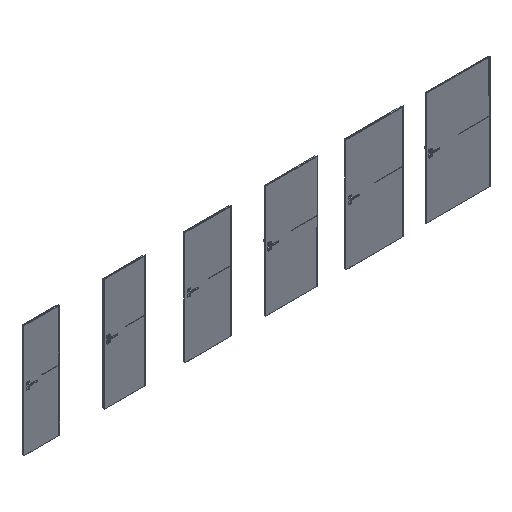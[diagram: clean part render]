
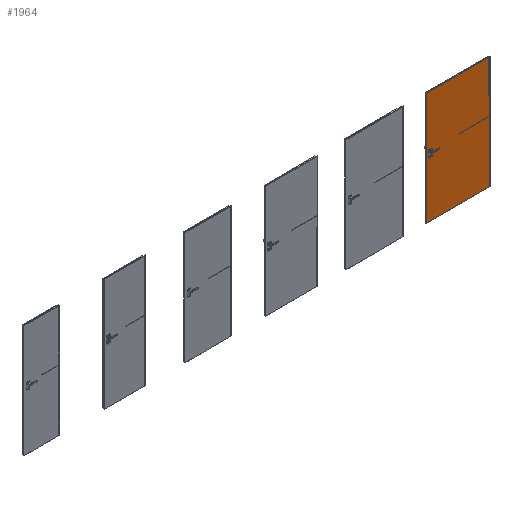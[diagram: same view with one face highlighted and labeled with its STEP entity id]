
A CAD part, isometric view. The second image highlights one B-rep face of the part: STEP entity #1964.
In plain terms, the highlighted planar face has unit normal (0, -1, 0).
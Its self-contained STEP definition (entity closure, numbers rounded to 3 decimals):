
#1964=ADVANCED_FACE('',(#3720),#3006,.F.);
#3006=PLANE('',#19812);
#3720=FACE_OUTER_BOUND('',#4896,.T.);
#4896=EDGE_LOOP('',(#8286,#8287,#8288,#8289,#8290,#8291,#8292,#8293));
#5994=CIRCLE('',#19811,3.);
#8286=ORIENTED_EDGE('',*,*,#14374,.F.);
#8287=ORIENTED_EDGE('',*,*,#14375,.T.);
#8288=ORIENTED_EDGE('',*,*,#14376,.F.);
#8289=ORIENTED_EDGE('',*,*,#14377,.F.);
#8290=ORIENTED_EDGE('',*,*,#14378,.T.);
#8291=ORIENTED_EDGE('',*,*,#14379,.T.);
#8292=ORIENTED_EDGE('',*,*,#14380,.F.);
#8293=ORIENTED_EDGE('',*,*,#14381,.F.);
#12440=VERTEX_POINT('',#30075);
#12441=VERTEX_POINT('',#30076);
#12442=VERTEX_POINT('',#30078);
#12443=VERTEX_POINT('',#30080);
#12444=VERTEX_POINT('',#30082);
#12445=VERTEX_POINT('',#30084);
#12446=VERTEX_POINT('',#30086);
#12447=VERTEX_POINT('',#30088);
#14374=EDGE_CURVE('',#12440,#12441,#5994,.T.);
#14375=EDGE_CURVE('',#12440,#12442,#16752,.T.);
#14376=EDGE_CURVE('',#12443,#12442,#16753,.T.);
#14377=EDGE_CURVE('',#12444,#12443,#16754,.T.);
#14378=EDGE_CURVE('',#12444,#12445,#16755,.T.);
#14379=EDGE_CURVE('',#12445,#12446,#16756,.T.);
#14380=EDGE_CURVE('',#12447,#12446,#16757,.T.);
#14381=EDGE_CURVE('',#12441,#12447,#16758,.T.);
#16752=LINE('',#30077,#18296);
#16753=LINE('',#30079,#18297);
#16754=LINE('',#30081,#18298);
#16755=LINE('',#30083,#18299);
#16756=LINE('',#30085,#18300);
#16757=LINE('',#30087,#18301);
#16758=LINE('',#30089,#18302);
#18296=VECTOR('',#22709,1.);
#18297=VECTOR('',#22710,1.);
#18298=VECTOR('',#22711,1.);
#18299=VECTOR('',#22712,1.);
#18300=VECTOR('',#22713,1.);
#18301=VECTOR('',#22714,1.);
#18302=VECTOR('',#22715,1.);
#19811=AXIS2_PLACEMENT_3D('',#30074,#22707,#22708);
#19812=AXIS2_PLACEMENT_3D('',#30090,#22716,#22717);
#22707=DIRECTION('',(0.,-1.,0.));
#22708=DIRECTION('',(1.,0.,0.));
#22709=DIRECTION('',(1.,0.,0.));
#22710=DIRECTION('',(0.,0.,-1.));
#22711=DIRECTION('',(1.,0.,0.));
#22712=DIRECTION('',(0.,0.,-1.));
#22713=DIRECTION('',(1.,0.,0.));
#22714=DIRECTION('',(0.,0.,-1.));
#22715=DIRECTION('',(1.,0.,0.));
#22716=DIRECTION('',(0.,1.,0.));
#22717=DIRECTION('',(-1.,0.,0.));
#30074=CARTESIAN_POINT('',(7503.,-39.3,1104.));
#30075=CARTESIAN_POINT('',(7503.,-39.3,1107.));
#30076=CARTESIAN_POINT('',(7503.,-39.3,1101.));
#30077=CARTESIAN_POINT('',(8072.,-39.3,1107.));
#30078=CARTESIAN_POINT('',(8072.,-39.3,1107.));
#30079=CARTESIAN_POINT('',(8072.,-39.3,2030.));
#30080=CARTESIAN_POINT('',(8072.,-39.3,2030.));
#30081=CARTESIAN_POINT('',(7178.,-39.3,2030.));
#30082=CARTESIAN_POINT('',(6928.,-39.3,2030.));
#30083=CARTESIAN_POINT('',(6928.,-39.3,2030.));
#30084=CARTESIAN_POINT('',(6928.,-39.3,2.));
#30085=CARTESIAN_POINT('',(7178.,-39.3,2.));
#30086=CARTESIAN_POINT('',(8072.,-39.3,2.));
#30087=CARTESIAN_POINT('',(8072.,-39.3,2030.));
#30088=CARTESIAN_POINT('',(8072.,-39.3,1101.));
#30089=CARTESIAN_POINT('',(8072.,-39.3,1101.));
#30090=CARTESIAN_POINT('',(7178.,-39.3,2030.));
